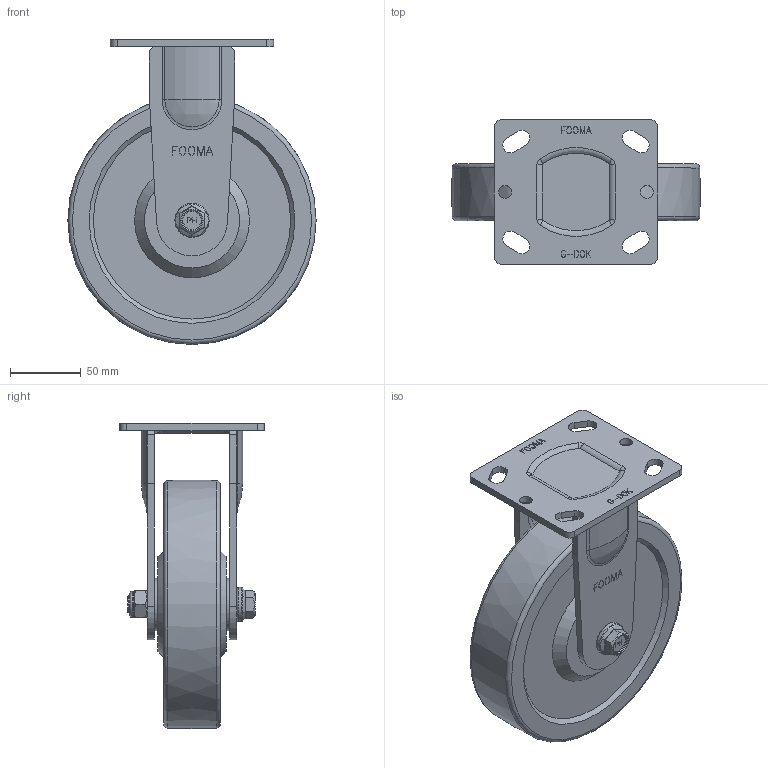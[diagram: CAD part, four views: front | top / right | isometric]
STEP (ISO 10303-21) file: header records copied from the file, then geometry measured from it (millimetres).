
FILE_DESCRIPTION(/* description */ (''),/* implementation_level */ '2;1');
FILE_NAME(/* name */ '\\192.168.10.38\지덕공유\1.기술연구소\2.연구개발 진행중\28.PLM-SERIES_MEDIUM\제품설계\홈페이지용 도면\PLM-175-ARF-MCD.stp',/* time_stamp */ '2022-03-04T18:00:36+09:00',/* author */ ('admin'),/* organization */ (''),/* preprocessor_version */ 'ST-DEVELOPER v18.1',/* originating_system */ 'Autodesk Inventor 2021',/* authorisation */ '');
FILE_SCHEMA (('AUTOMOTIVE_DESIGN { 1 0 10303 214 3 1 1 }'));
Length unit declared in the file: millimetre
Products named in the file (1): PLM-175-ARF-MCD
Bounding box: 175 x 102 x 215 mm (x, y, z)
Volume: 1070861.4 mm3; surface area: 128971.8 mm2
Topology: 1 solids, 1 shells, 681 faces, 1881 edges, 1248 vertices
Faces by surface type: plane 584, cylinder 38, bspline 27, torus 15, cone 13, sphere 4
Full cylindrical faces by diameter (mm): 9 x2, 12 x1, 14 x1, 18.5 x1, 24 x1, 37 x2
Entity records: 22507 total; most frequent: CARTESIAN_POINT 5110, ORIENTED_EDGE 3762, DIRECTION 3299, EDGE_CURVE 1881, LINE 1641, VECTOR 1641, VERTEX_POINT 1248, AXIS2_PLACEMENT_3D 829
